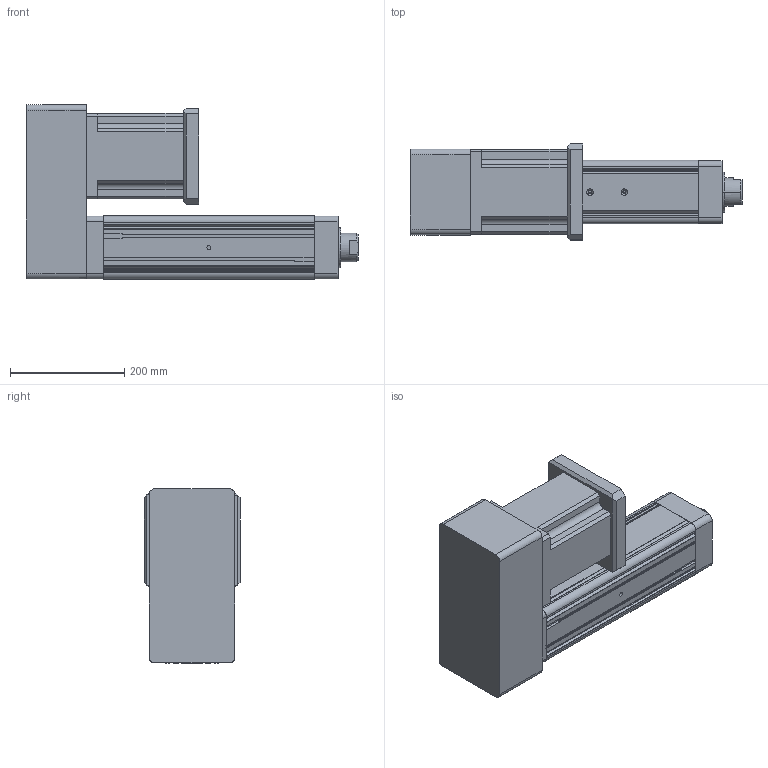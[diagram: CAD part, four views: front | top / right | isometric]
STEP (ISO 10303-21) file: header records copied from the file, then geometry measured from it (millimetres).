
FILE_DESCRIPTION (( 'STEP AP203' ), '1' );
FILE_NAME ('YRJ110-L200-H1K2.STEP', '2020-01-04T05:52:38', ( 'User' ), ( 'China' ), 'SwSTEP 2.0', 'SolidWorks 2016', '' );
FILE_SCHEMA (( 'CONFIG_CONTROL_DESIGN' ));
Length unit declared in the file: millimetre
Products named in the file (7): 萇儂碟-110; 142熬厒儂; K2-110; YRJ110-L200-H1K2; 095-100俴最倰第; H1-110-1; H1-110-2
Assembly tree (6 placements, depth 2):
  YRJ110-L200-H1K2
    095-100俴最倰第
    H1-110-1
    H1-110-2
    萇儂碟-110
    142熬厒儂
    K2-110
Bounding box: 581 x 168 x 305.5 mm (x, y, z)
Volume: 11333066.1 mm3; surface area: 807607.2 mm2
Topology: 6 solids, 6 shells, 311 faces, 854 edges, 545 vertices
Faces by surface type: plane 162, cylinder 114, cone 35
Entity records: 10772 total; most frequent: CARTESIAN_POINT 2035, DIRECTION 1691, ORIENTED_EDGE 1660, EDGE_CURVE 830, VECTOR 565, LINE 565, AXIS2_PLACEMENT_3D 563, VERTEX_POINT 545
